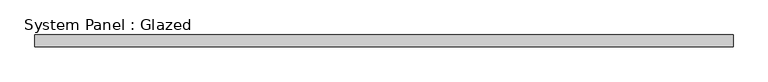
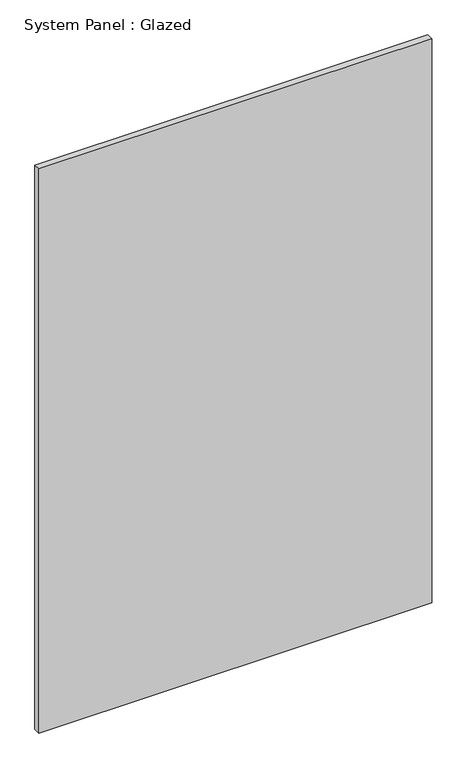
"""IFC4 building model written with IfcOpenShell, lengths in millimetres: plate geometry, System Panel : Glazed."""

import ifcopenshell
import ifcopenshell.guid

model = None  # the IFC model being written
_history = None  # IfcOwnerHistory: only IFC2X3 demands one
_inside = {}  # id of a spatial element -> (the spatial element, [elements in it])
_under = {}  # id of a project, library or spatial element -> (it, [spatial elements below it])
_declared = {}  # id of a project -> (the project, [libraries it declares])
_typed = {}  # id of a type object -> (the type object, [elements of that type])
_made_of = {}  # id of a material, layer set ... -> (it, [elements and type objects made of it])


def new_model(schema):
    """Start an empty IFC model of exactly this schema.

    Asked for "IFC4X3", IfcOpenShell would pick the latest addendum, in which some entities
    have other attributes; the version numbers below select the first issue.
    IFC2X3 requires an IfcOwnerHistory on every rooted entity: one is made here for all.
    """
    global model, _history
    if schema == "IFC4X3":
        model = ifcopenshell.file(schema_version=(4, 3, 0, 0))
    else:
        model = ifcopenshell.file(schema=schema)
    _inside.clear()
    _under.clear()
    _declared.clear()
    _typed.clear()
    _made_of.clear()
    _history = None
    if model.schema == "IFC2X3":
        org = make("IfcOrganization", Name="unknown")
        user = make(
            "IfcPersonAndOrganization",
            ThePerson=make("IfcPerson", FamilyName="unknown"),
            TheOrganization=org,
        )
        app = make(
            "IfcApplication",
            ApplicationDeveloper=org,
            Version="unknown",
            ApplicationFullName="unknown",
            ApplicationIdentifier="unknown",
        )
        _history = make(
            "IfcOwnerHistory",
            OwningUser=user,
            OwningApplication=app,
            ChangeAction="ADDED",
            CreationDate=0,
        )
    return model


def make(cls, **values):
    """One entity of the class cls with the attributes given. An attribute that is None is left unset."""
    return model.create_entity(
        cls, **{name: value for name, value in values.items() if value is not None}
    )


def rooted(cls, **values):
    """An entity with a GlobalId (a new one), such as an element, a storey or a relation."""
    return make(cls, GlobalId=ifcopenshell.guid.new(), OwnerHistory=_history, **values)


def si_unit(unit_type, name, prefix=None):
    """IfcSIUnit, for example si_unit("LENGTHUNIT", "METRE", prefix="MILLI")."""
    return make("IfcSIUnit", UnitType=unit_type, Prefix=prefix, Name=name)


def assignment(units):
    """IfcUnitAssignment: the units of a project."""
    return None if units is None else make("IfcUnitAssignment", Units=units)


def point(xyz):
    """IfcCartesianPoint."""
    return None if xyz is None else make("IfcCartesianPoint", Coordinates=xyz)


def direction(xyz):
    """IfcDirection."""
    return None if xyz is None else make("IfcDirection", DirectionRatios=xyz)


def frame(location, z_axis=None, x_axis=None):
    """IfcAxis2Placement3D, a coordinate frame: its origin and axes. An axis left out is left unset."""
    return make(
        "IfcAxis2Placement3D",
        Location=point(location),
        Axis=direction(z_axis),
        RefDirection=direction(x_axis),
    )


def origin():
    """The frame at (0, 0, 0) with its axes left unset."""
    return frame((0.0, 0.0, 0.0))


def origin_with_axes():
    """The frame at (0, 0, 0) with the z axis (0, 0, 1) and the x axis (1, 0, 0) written out."""
    return frame((0.0, 0.0, 0.0), z_axis=(0.0, 0.0, 1.0), x_axis=(1.0, 0.0, 0.0))


def place(relative_to, where):
    """IfcLocalPlacement: puts the frame where relative to a parent placement (None: the world)."""
    return make(
        "IfcLocalPlacement", PlacementRelTo=relative_to, RelativePlacement=where
    )


def context(
    kind, dimensions, precision=None, world=None, true_north=None, identifier=None
):
    """IfcGeometricRepresentationContext, for example the 3D "Model" context."""
    return make(
        "IfcGeometricRepresentationContext",
        ContextIdentifier=identifier,
        ContextType=kind,
        CoordinateSpaceDimension=dimensions,
        Precision=precision,
        WorldCoordinateSystem=world,
        TrueNorth=true_north,
    )


def project(units=None, contexts=None):
    """IfcProject with its units and contexts."""
    return rooted(
        "IfcProject",
        Name="project",
        RepresentationContexts=contexts,
        UnitsInContext=assignment(units),
    )


def spatial(cls, under=None, at=None, **own):
    """A site, building, storey or space (cls), placed at a placement, below another one or the project."""
    s = rooted(cls, ObjectPlacement=at, **own)
    if under is not None:
        _under.setdefault(under.id(), (under, []))[1].append(s)
    return s


def polyline(points):
    """IfcPolyline through the points."""
    return make("IfcPolyline", Points=[point(p) for p in points])


def outline(outer, holes=None, kind="AREA"):
    """IfcArbitraryClosedProfileDef: a profile drawn as a closed curve; with holes, ...WithVoids."""
    if holes is None:
        return make("IfcArbitraryClosedProfileDef", ProfileType=kind, OuterCurve=outer)
    return make(
        "IfcArbitraryProfileDefWithVoids",
        ProfileType=kind,
        OuterCurve=outer,
        InnerCurves=holes,
    )


def extrude(swept, where, along, depth):
    """IfcExtrudedAreaSolid: the profile swept, set in the frame where, extruded along a direction by depth."""
    return make(
        "IfcExtrudedAreaSolid",
        SweptArea=swept,
        Position=where,
        ExtrudedDirection=direction(along),
        Depth=depth,
    )


def shape(context_of_items, identifier, shape_type, items):
    """IfcShapeRepresentation: the items that make up one representation, for example the "Body"."""
    return make(
        "IfcShapeRepresentation",
        ContextOfItems=context_of_items,
        RepresentationIdentifier=identifier,
        RepresentationType=shape_type,
        Items=items,
    )


def source(mapping_origin, context_of_items, identifier, shape_type, items):
    """IfcRepresentationMap: a shape defined once, which mapped items show again and again."""
    return make(
        "IfcRepresentationMap",
        MappingOrigin=mapping_origin,
        MappedRepresentation=shape(context_of_items, identifier, shape_type, items),
    )


def transform(
    local_origin,
    x_axis=None,
    y_axis=None,
    z_axis=None,
    scale=None,
    scale2=None,
    scale3=None,
    uniform=True,
):
    """IfcCartesianTransformationOperator3D, or its non-uniform kind. x_axis, y_axis, z_axis: its Axis1, 2, 3."""
    if uniform:
        return make(
            "IfcCartesianTransformationOperator3D",
            Axis1=direction(x_axis),
            Axis2=direction(y_axis),
            LocalOrigin=point(local_origin),
            Scale=scale,
            Axis3=direction(z_axis),
        )
    return make(
        "IfcCartesianTransformationOperator3DnonUniform",
        Axis1=direction(x_axis),
        Axis2=direction(y_axis),
        LocalOrigin=point(local_origin),
        Scale=scale,
        Axis3=direction(z_axis),
        Scale2=scale2,
        Scale3=scale3,
    )


def mapped(mapping_source, mapping_target):
    """IfcMappedItem: shows the shape of a source again, moved by a transform."""
    return make(
        "IfcMappedItem", MappingSource=mapping_source, MappingTarget=mapping_target
    )


def made_of(thing, what):
    """Note that an element or type object is made of a material, layer set ...; save() writes the relation."""
    if what is not None:
        _made_of.setdefault(what.id(), (what, []))[1].append(thing)
    return thing


def element(
    cls,
    number,
    at=None,
    inside=None,
    cuts=None,
    type_object=None,
    material=None,
    context=None,
    identifier="Body",
    shape_type=None,
    held_by="IfcProductDefinitionShape",
    body=None,
    shapes=None,
    **own,
):
    """One element of the class cls, such as IfcWall. Its Tag is "e" and its number.

    at: its placement. inside: the storey or other place that contains it. cuts: it is an
    opening in that element (IfcRelVoidsElement). A single representation is given by context,
    identifier, shape_type and body (its items); several are given by shapes. held_by: the class
    of the entity that holds the representations. save() writes the other relations.
    """
    e = rooted(cls, Tag="e%d" % number, ObjectPlacement=at, **own)
    if body is not None:
        shapes = [shape(context, identifier, shape_type, body)]
    if shapes is not None:
        e.Representation = make(held_by, Representations=shapes)
    if inside is not None:
        _inside.setdefault(inside.id(), (inside, []))[1].append(e)
    if cuts is not None:
        rooted(
            "IfcRelVoidsElement", RelatingBuildingElement=cuts, RelatedOpeningElement=e
        )
    if type_object is not None:
        _typed.setdefault(type_object.id(), (type_object, []))[1].append(e)
    return made_of(e, material)


def aggregate(whole, parts):
    """IfcRelAggregates: a whole, such as a stair, and the parts it consists of."""
    return rooted("IfcRelAggregates", RelatingObject=whole, RelatedObjects=parts)


def save(model, path):
    """Write the relations noted so far, then the file.

    IfcRelAggregates (storeys below a building ...), IfcRelContainedInSpatialStructure (elements
    in a storey), IfcRelDefinesByType, IfcRelAssociatesMaterial and IfcRelDeclares: one each for
    every whole, place, type object, material and project.
    """
    for whole, parts in _under.values():
        aggregate(whole, parts)
    for where, things in _inside.values():
        rooted(
            "IfcRelContainedInSpatialStructure",
            RelatedElements=things,
            RelatingStructure=where,
        )
    for kind, things in _typed.values():
        rooted("IfcRelDefinesByType", RelatedObjects=things, RelatingType=kind)
    for what, things in _made_of.values():
        rooted("IfcRelAssociatesMaterial", RelatedObjects=things, RelatingMaterial=what)
    for by, libraries in _declared.values():
        rooted("IfcRelDeclares", RelatingContext=by, RelatedDefinitions=libraries)
    model.write(path)


def system_panel_glazed_203c5cc8(model_context):
    return source(origin(), model_context, "Body", "SweptSolid", [
        extrude(outline(polyline([(753.5333333, -12.7), (-753.5333333, -12.7), (-753.5333333, 12.7), (753.5333333, 12.7), (753.5333333, -12.7)])), origin_with_axes(), (0.0, 0.0, 1.0), 2287.6010357),
    ])


if __name__ == "__main__":
    model = new_model("IFC4")
    model_context = context("Model", 3, world=origin())
    ifc_project = project(units=[si_unit("LENGTHUNIT", "METRE", prefix="MILLI")], contexts=[model_context])
    site = spatial("IfcSite", under=ifc_project)
    building = spatial("IfcBuilding", under=site)
    placement = place(None, origin())
    system_panel_glazed_shape = system_panel_glazed_203c5cc8(model_context)
    element("IfcPlate", 1, ObjectType="System Panel : Glazed", at=placement, inside=building, context=model_context, shape_type="MappedRepresentation", body=[
        mapped(system_panel_glazed_shape, transform((0.0, 0.0, 0.0), x_axis=(1.0, 0.0, 0.0), y_axis=(0.0, 1.0, 0.0), z_axis=(0.0, 0.0, 1.0))),
    ])
    save(model, "model.ifc")
